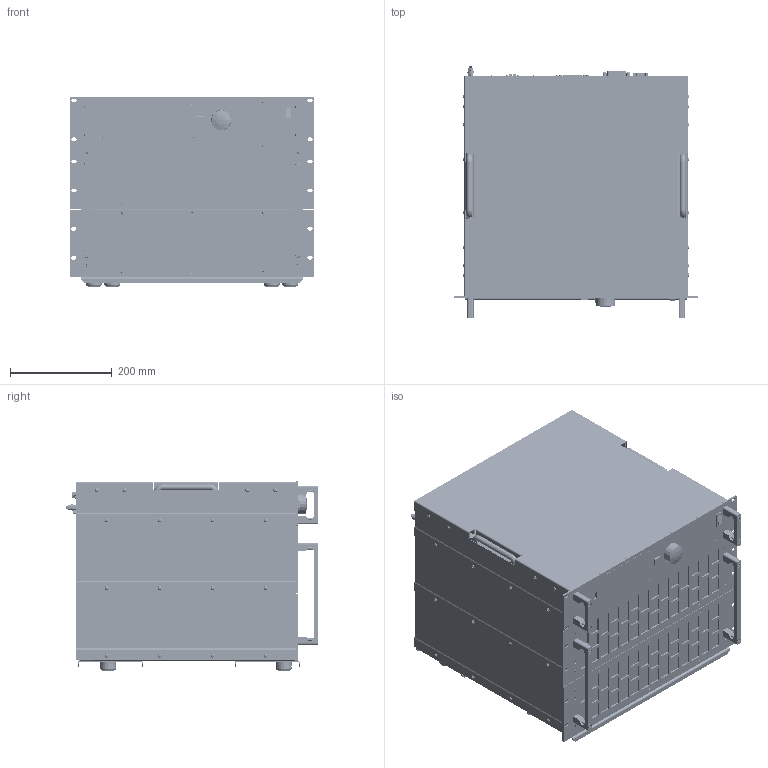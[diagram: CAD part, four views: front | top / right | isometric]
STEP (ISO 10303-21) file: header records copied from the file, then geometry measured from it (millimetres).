
FILE_DESCRIPTION(('STEP AP214'),'1');
FILE_NAME('ACL_M17_19Z_8HE_PH3_7.62-ST41_BRA_3D_02.step','2020-02-20T10:35:27',(' '),(' '),'Spatial InterOp 3D',' ',' ');
FILE_SCHEMA(('AUTOMOTIVE_DESIGN { 1 0 10303 214 1 1 1 1 }'));
Length unit declared in the file: millimetre
Products named in the file (20): *U336; *U337; *U338; *U339; *U340; *U341; *U342; *U373; A$C72AE6952; 2078_ACL_IO Panel_02; 2085_ACL_Rückwand_Steuerteil_Single_Phase_mit_Druck_3D_02; *U374; *U255; *U256; *U257; *U249; *U250; *U251; AutoCreatedBlock_2102
Assembly tree (97 placements, depth 2):
  (unnamed)
    *U336  x2
    *U337
    *U338  x3
    *U339  x2
    *U340  x2
    *U341  x13
    *U342  x16
    *U373  x6
    A$C72AE6952
    2078_ACL_IO Panel_02
    2085_ACL_Rückwand_Steuerteil_Single_Phase_mit_Druck_3D_02
    *U374  x4
    *U255  x8
    *U256  x6
    *U257  x8
    *U249  x8
    *U250  x6
    *U251  x8
    AutoCreatedBlock_2102
Bounding box: 482.7 x 497.65 x 372.48 mm (x, y, z)
Volume: 2985664.2 mm3; surface area: 4323393 mm2
Topology: 249 solids, 335 shells, 18972 faces, 47671 edges, 29924 vertices
Faces by surface type: plane 9118, cone 6053, cylinder 3127, sphere 233, torus 223, bspline 190, extrusion 28
Entity records: 610014 total; most frequent: CARTESIAN_POINT 118284, DIRECTION 76281, ORIENTED_EDGE 74618, EDGE_CURVE 37475, VECTOR 26649, LINE 26621, AXIS2_PLACEMENT_3D 24816, VERTEX_POINT 23721
